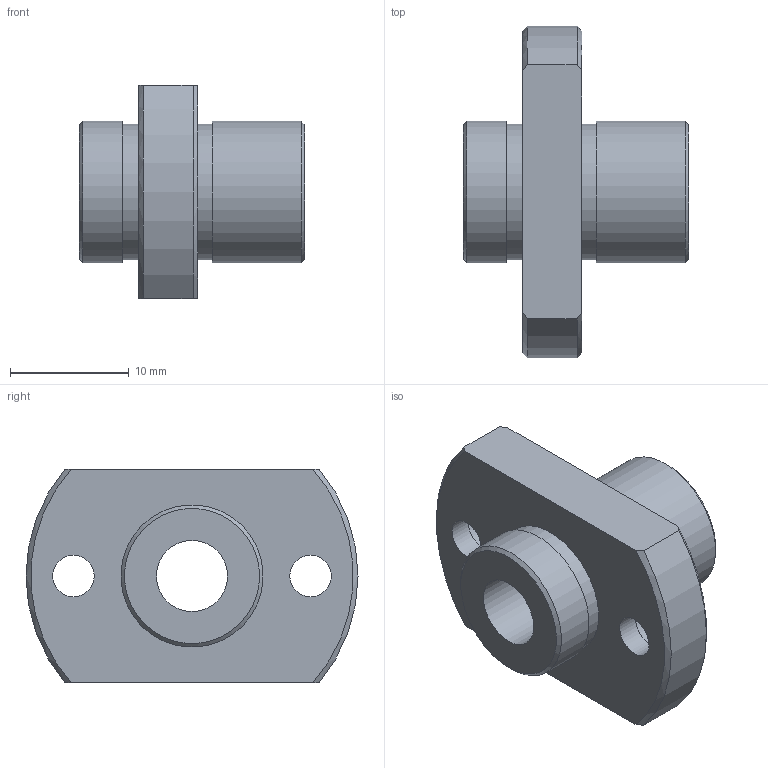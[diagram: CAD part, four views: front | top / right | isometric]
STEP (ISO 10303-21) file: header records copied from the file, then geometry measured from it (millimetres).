
FILE_DESCRIPTION(('STEP AP203'),'1');
FILE_NAME('//192.168.1.1/share/s-4 技術開発/s-4-4_CAD/s-4-4-3_見直し済み/002 修正済み/NFIO-V/NFIO-V_TOP/NFIO6.step','2022-03-07T02:12:18',(' '),(' '),'Spatial InterOp 3D',' ',' ');
FILE_SCHEMA(('CONFIG_CONTROL_DESIGN'));
Length unit declared in the file: millimetre
Products named in the file (1): 1
Bounding box: 19 x 28 x 18 mm (x, y, z)
Volume: 3134.3 mm3; surface area: 2293.2 mm2
Topology: 1 solids, 1 shells, 27 faces, 61 edges, 42 vertices
Faces by surface type: cylinder 11, plane 10, cone 6
Full cylindrical faces by diameter (mm): 3.5 x2, 6 x3, 11.5 x2, 12 x2
Entity records: 730 total; most frequent: CARTESIAN_POINT 132, DIRECTION 120, ORIENTED_EDGE 88, AXIS2_PLACEMENT_3D 56, EDGE_LOOP 50, EDGE_CURVE 44, FACE_OUTER_BOUND 36, VERTEX_POINT 36
